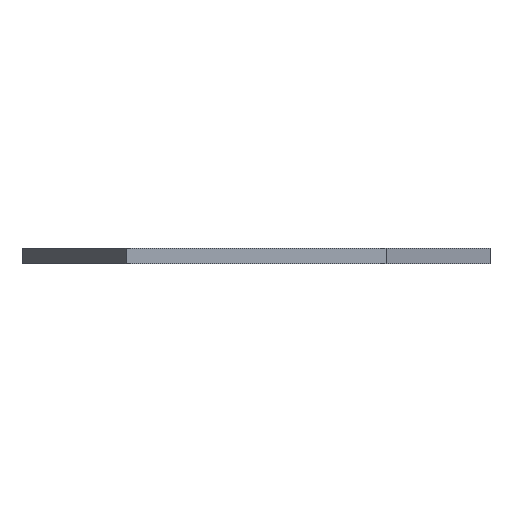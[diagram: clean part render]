
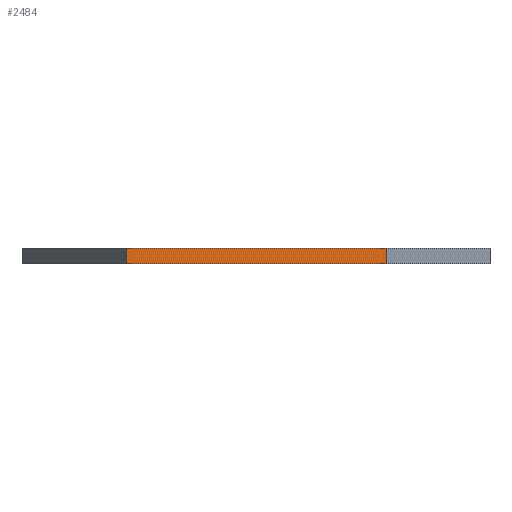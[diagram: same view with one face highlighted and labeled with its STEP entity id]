
A CAD part, front view. The second image highlights one B-rep face of the part: STEP entity #2484.
In plain terms, the highlighted planar face has unit normal (0, -1, 0).
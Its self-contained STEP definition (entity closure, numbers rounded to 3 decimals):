
#446 = CARTESIAN_POINT ( 'NONE',  ( -50., 0., 0. ) ) ;
#1067 = CARTESIAN_POINT ( 'NONE',  ( -50., 0., 0. ) ) ;
#1068 = LINE ( 'NONE', #1067, #1100 ) ;
#1099 = DIRECTION ( 'NONE',  ( 1., 0., 0. ) ) ;
#1100 = VECTOR ( 'NONE', #1099, 1000. ) ;
#1211 = CARTESIAN_POINT ( 'NONE',  ( 50., 0., 0. ) ) ;
#1238 = PLANE ( 'NONE',  #1241 ) ;
#1241 = AXIS2_PLACEMENT_3D ( 'NONE', #1245, #1283, #1281 ) ;
#1245 = CARTESIAN_POINT ( 'NONE',  ( -50., 0., 6. ) ) ;
#1277 = FACE_OUTER_BOUND ( 'NONE', #2533, .T. ) ;
#1281 = DIRECTION ( 'NONE',  ( 0., 0., 1. ) ) ;
#1283 = DIRECTION ( 'NONE',  ( 0., 1., 0. ) ) ;
#1393 = DIRECTION ( 'NONE',  ( 1., 0., 0. ) ) ;
#1394 = CARTESIAN_POINT ( 'NONE',  ( -50., 0., 6. ) ) ;
#1395 = DIRECTION ( 'NONE',  ( 0., 0., -1. ) ) ;
#1418 = CARTESIAN_POINT ( 'NONE',  ( 50., 0., 6. ) ) ;
#1424 = LINE ( 'NONE', #1418, #1438 ) ;
#1430 = ORIENTED_EDGE ( 'NONE', *, *, #2504, .T. ) ;
#1432 = ORIENTED_EDGE ( 'NONE', *, *, #2544, .F. ) ;
#1438 = VECTOR ( 'NONE', #1395, 1000. ) ;
#1511 = LINE ( 'NONE', #1394, #1557 ) ;
#1513 = VECTOR ( 'NONE', #1553, 1000. ) ;
#1534 = CARTESIAN_POINT ( 'NONE',  ( -50., 0., 6. ) ) ;
#1535 = LINE ( 'NONE', #1534, #1513 ) ;
#1553 = DIRECTION ( 'NONE',  ( 0., 0., -1. ) ) ;
#1557 = VECTOR ( 'NONE', #1393, 1000. ) ;
#1613 = CARTESIAN_POINT ( 'NONE',  ( 50., 0., 6. ) ) ;
#1646 = CARTESIAN_POINT ( 'NONE',  ( -50., 0., 6. ) ) ;
#2344 = EDGE_CURVE ( 'NONE', #2360, #2423, #1068, .T. ) ;
#2360 = VERTEX_POINT ( 'NONE', #446 ) ;
#2423 = VERTEX_POINT ( 'NONE', #1211 ) ;
#2484 = ADVANCED_FACE ( 'NONE', ( #1277 ), #1238, .F. ) ;
#2504 = EDGE_CURVE ( 'NONE', #2550, #2360, #1535, .T. ) ;
#2505 = ORIENTED_EDGE ( 'NONE', *, *, #2521, .F. ) ;
#2506 = ORIENTED_EDGE ( 'NONE', *, *, #2344, .T. ) ;
#2521 = EDGE_CURVE ( 'NONE', #2531, #2423, #1424, .T. ) ;
#2531 = VERTEX_POINT ( 'NONE', #1613 ) ;
#2533 = EDGE_LOOP ( 'NONE', ( #2506, #2505, #1432, #1430 ) ) ;
#2544 = EDGE_CURVE ( 'NONE', #2550, #2531, #1511, .T. ) ;
#2550 = VERTEX_POINT ( 'NONE', #1646 ) ;
